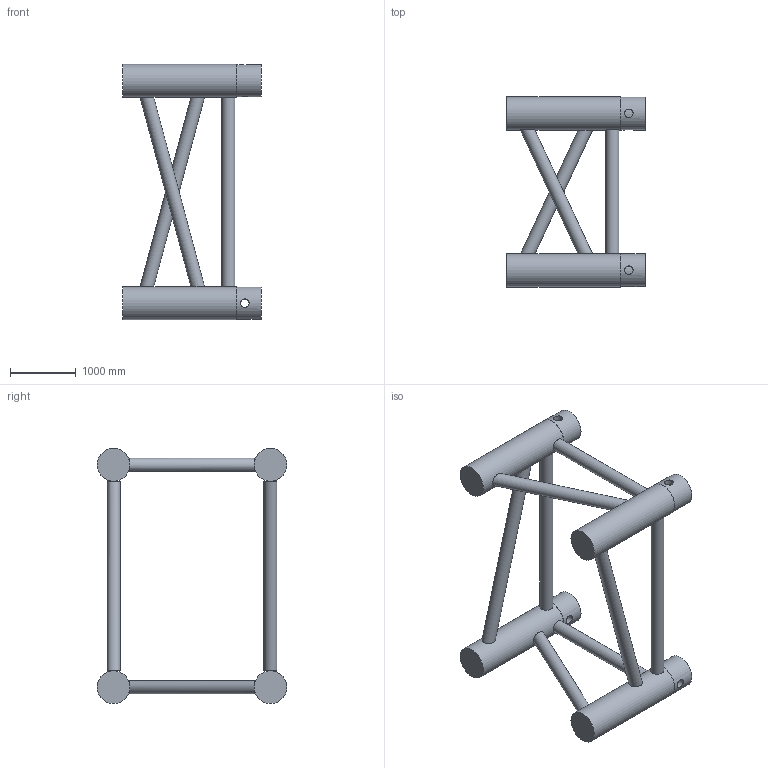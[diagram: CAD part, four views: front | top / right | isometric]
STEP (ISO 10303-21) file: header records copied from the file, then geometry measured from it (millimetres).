
FILE_DESCRIPTION(/* description */ (''),/* implementation_level */ '2;1');
FILE_NAME(/* name */ 'C:\Users\Stephan\Desktop\BOX-40R-A-001_111130051.stp',/* time_stamp */ '2018-08-15T13:59:52+02:00',/* author */ ('Stephan'),/* organization */ (''),/* preprocessor_version */ 'ST-DEVELOPER v16.13',/* originating_system */ 'AutoCAD Mechanical',/* authorisation */ '');
FILE_SCHEMA (('AUTOMOTIVE_DESIGN { 1 0 10303 214 3 1 1 }'));
Length unit declared in the file: centimetre
Products named in the file (1): Product
Bounding box: 2110 x 2890 x 3890 mm (x, y, z)
Volume: 2244438965.6 mm3; surface area: 28401320.9 mm2
Topology: 12 solids, 12 shells, 64 faces, 108 edges, 68 vertices
Faces by surface type: plane 42, cylinder 22
Full cylindrical faces by diameter (mm): 130.481 x4, 200 x8, 495 x4, 500 x4
Entity records: 1991 total; most frequent: CARTESIAN_POINT 835, DIRECTION 242, ORIENTED_EDGE 188, AXIS2_PLACEMENT_3D 113, EDGE_LOOP 108, EDGE_CURVE 82, VERTEX_POINT 66, FACE_OUTER_BOUND 62
